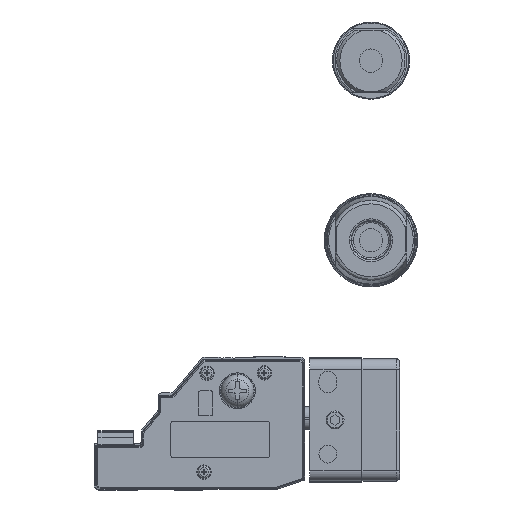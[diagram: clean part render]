
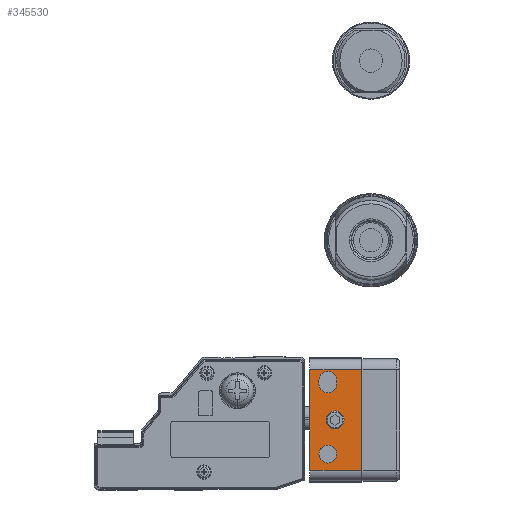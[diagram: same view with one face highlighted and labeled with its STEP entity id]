
A CAD part, left-side view. The second image highlights one B-rep face of the part: STEP entity #345530.
In plain terms, the highlighted planar face has unit normal (-1, 0, 0) as drawn and (0, 0, -1) by its records, which use the part's own axes.
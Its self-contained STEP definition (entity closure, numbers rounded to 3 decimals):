
#344480=CARTESIAN_POINT('',(-201.714,217.373,
0.));
#344490=DIRECTION('',(-0.,-0.,-1.));
#344500=DIRECTION('',(0.,-1.,0.));
#344510=AXIS2_PLACEMENT_3D('',#344480,#344490,#344500);
#344520=PLANE('',#344510);
#344530=CARTESIAN_POINT('',(-191.714,212.373,
0.));
#344540=DIRECTION('',(0.,0.,-1.));
#344550=DIRECTION('',(-1.,0.,0.));
#344560=AXIS2_PLACEMENT_3D('',#344530,#344540,#344550);
#344570=CIRCLE('',#344560,2.5);
#344580=CARTESIAN_POINT('',(-191.714,209.873,
0.));
#344590=VERTEX_POINT('',#344580);
#344600=CARTESIAN_POINT('',(-191.714,214.873,
0.));
#344610=VERTEX_POINT('',#344600);
#344620=EDGE_CURVE('',#344590,#344610,#344570,.T.);
#344630=ORIENTED_EDGE('',*,*,#344620,.F.);
#344640=CARTESIAN_POINT('',(0.,214.873,0.));
#344650=DIRECTION('',(-1.,0.,0.));
#344660=VECTOR('',#344650,1.);
#344670=LINE('',#344640,#344660);
#344680=CARTESIAN_POINT('',(-190.714,214.873,
0.));
#344690=VERTEX_POINT('',#344680);
#344700=EDGE_CURVE('',#344690,#344610,#344670,.T.);
#344710=ORIENTED_EDGE('',*,*,#344700,.T.);
#344720=CARTESIAN_POINT('',(-190.714,212.373,
0.));
#344730=DIRECTION('',(0.,0.,-1.));
#344740=DIRECTION('',(-1.,0.,0.));
#344750=AXIS2_PLACEMENT_3D('',#344720,#344730,#344740);
#344760=CIRCLE('',#344750,2.5);
#344770=CARTESIAN_POINT('',(-190.714,209.873,
0.));
#344780=VERTEX_POINT('',#344770);
#344790=EDGE_CURVE('',#344690,#344780,#344760,.T.);
#344800=ORIENTED_EDGE('',*,*,#344790,.F.);
#344810=CARTESIAN_POINT('',(0.,209.873,0.));
#344820=DIRECTION('',(1.,0.,0.));
#344830=VECTOR('',#344820,1.);
#344840=LINE('',#344810,#344830);
#344850=EDGE_CURVE('',#344590,#344780,#344840,.T.);
#344860=ORIENTED_EDGE('',*,*,#344850,.T.);
#344870=EDGE_LOOP('',(#344860,#344800,#344710,#344630));
#344880=FACE_BOUND('',#344870,.T.);
#344890=CARTESIAN_POINT('',(-171.214,212.373,
0.));
#344900=DIRECTION('',(0.,0.,-1.));
#344910=DIRECTION('',(-1.,0.,0.));
#344920=AXIS2_PLACEMENT_3D('',#344890,#344900,#344910);
#344930=CIRCLE('',#344920,2.5);
#344940=CARTESIAN_POINT('',(-173.714,212.373,
0.));
#344950=VERTEX_POINT('',#344940);
#344960=CARTESIAN_POINT('',(-168.714,212.373,
0.));
#344970=VERTEX_POINT('',#344960);
#344980=EDGE_CURVE('',#344950,#344970,#344930,.T.);
#344990=ORIENTED_EDGE('',*,*,#344980,.F.);
#345000=EDGE_CURVE('',#344970,#344950,#344930,.T.);
#345010=ORIENTED_EDGE('',*,*,#345000,.F.);
#345020=EDGE_LOOP('',(#345010,#344990));
#345030=FACE_BOUND('',#345020,.T.);
#345040=CARTESIAN_POINT('',(-180.714,210.373,
0.));
#345050=DIRECTION('',(0.,0.,-1.));
#345060=DIRECTION('',(-1.,0.,0.));
#345070=AXIS2_PLACEMENT_3D('',#345040,#345050,#345060);
#345080=CIRCLE('',#345070,2.5);
#345090=CARTESIAN_POINT('',(-183.214,210.373,
0.));
#345100=VERTEX_POINT('',#345090);
#345110=CARTESIAN_POINT('',(-178.214,210.373,
0.));
#345120=VERTEX_POINT('',#345110);
#345130=EDGE_CURVE('',#345100,#345120,#345080,.T.);
#345140=ORIENTED_EDGE('',*,*,#345130,.F.);
#345150=EDGE_CURVE('',#345120,#345100,#345080,.T.);
#345160=ORIENTED_EDGE('',*,*,#345150,.F.);
#345170=EDGE_LOOP('',(#345160,#345140));
#345180=FACE_BOUND('',#345170,.T.);
#345190=CARTESIAN_POINT('',(-166.714,-2.,0.));
#345200=DIRECTION('',(0.,1.,0.));
#345210=VECTOR('',#345200,1.);
#345220=LINE('',#345190,#345210);
#345230=CARTESIAN_POINT('',(-166.714,203.073,
0.));
#345240=VERTEX_POINT('',#345230);
#345250=CARTESIAN_POINT('',(-166.714,217.373,
0.));
#345260=VERTEX_POINT('',#345250);
#345270=EDGE_CURVE('',#345240,#345260,#345220,.T.);
#345280=ORIENTED_EDGE('',*,*,#345270,.F.);
#345290=CARTESIAN_POINT('',(0.,217.373,0.));
#345300=DIRECTION('',(-1.,0.,0.));
#345310=VECTOR('',#345300,1.);
#345320=LINE('',#345290,#345310);
#345330=CARTESIAN_POINT('',(-194.714,217.373,
0.));
#345340=VERTEX_POINT('',#345330);
#345350=EDGE_CURVE('',#345260,#345340,#345320,.T.);
#345360=ORIENTED_EDGE('',*,*,#345350,.F.);
#345370=CARTESIAN_POINT('',(-194.714,-2.,0.));
#345380=DIRECTION('',(0.,-1.,0.));
#345390=VECTOR('',#345380,1.);
#345400=LINE('',#345370,#345390);
#345410=CARTESIAN_POINT('',(-194.714,203.073,
0.));
#345420=VERTEX_POINT('',#345410);
#345430=EDGE_CURVE('',#345340,#345420,#345400,.T.);
#345440=ORIENTED_EDGE('',*,*,#345430,.F.);
#345450=CARTESIAN_POINT('',(0.,203.073,0.));
#345460=DIRECTION('',(-1.,0.,0.));
#345470=VECTOR('',#345460,1.);
#345480=LINE('',#345450,#345470);
#345490=EDGE_CURVE('',#345240,#345420,#345480,.T.);
#345500=ORIENTED_EDGE('',*,*,#345490,.T.);
#345510=EDGE_LOOP('',(#345500,#345440,#345360,#345280));
#345520=FACE_OUTER_BOUND('',#345510,.T.);
#345530=ADVANCED_FACE('',(#344880,#345030,#345180,#345520),#344520,.T.);
